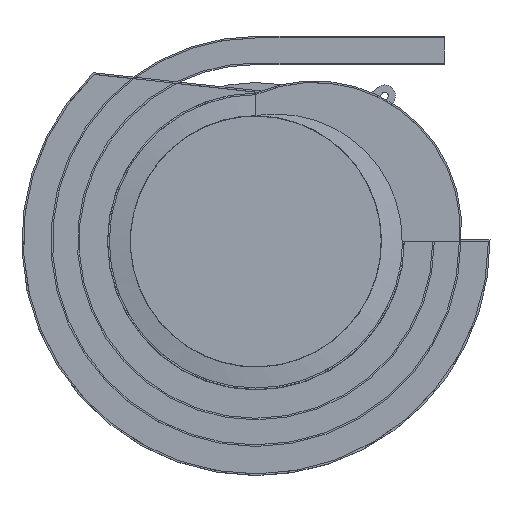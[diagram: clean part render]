
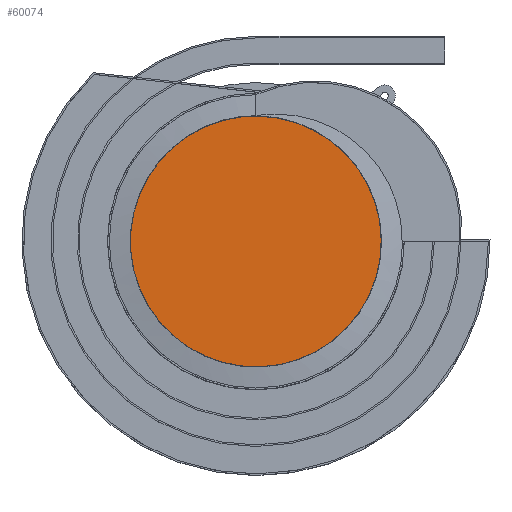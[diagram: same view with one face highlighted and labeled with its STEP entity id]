
A CAD part, top view. The second image highlights one B-rep face of the part: STEP entity #60074.
In plain terms, the highlighted planar face has unit normal (0, 0, 1) as drawn and (0, 1, 0) by its records, which use the part's own axes.
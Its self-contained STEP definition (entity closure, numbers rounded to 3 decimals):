
#5635 = CARTESIAN_POINT ( 'NONE',  ( 0., 240., 0. ) ) ;
#6329 = DIRECTION ( 'NONE',  ( 0., 0., -1. ) ) ;
#6831 = DIRECTION ( 'NONE',  ( 0., -1., 0. ) ) ;
#7486 = FACE_OUTER_BOUND ( 'NONE', #117508, .T. ) ;
#9879 = VERTEX_POINT ( 'NONE', #88602 ) ;
#14222 = ORIENTED_EDGE ( 'NONE', *, *, #48626, .F. ) ;
#28204 = CARTESIAN_POINT ( 'NONE',  ( 0., 240., -205. ) ) ;
#28951 = DIRECTION ( 'NONE',  ( 0., -1., 0. ) ) ;
#39331 = DIRECTION ( 'NONE',  ( 0., -1., 0. ) ) ;
#48626 = EDGE_CURVE ( 'NONE', #9879, #102577, #112095, .T. ) ;
#49953 = PLANE ( 'NONE',  #130750 ) ;
#57938 = AXIS2_PLACEMENT_3D ( 'NONE', #5635, #28951, #6329 ) ;
#60074 = ADVANCED_FACE ( 'NONE', ( #7486 ), #49953, .F. ) ;
#61979 = CARTESIAN_POINT ( 'NONE',  ( 0., 240., 0. ) ) ;
#62679 = DIRECTION ( 'NONE',  ( 0., 0., -1. ) ) ;
#66428 = ORIENTED_EDGE ( 'NONE', *, *, #88133, .F. ) ;
#78487 = AXIS2_PLACEMENT_3D ( 'NONE', #61979, #6831, #62679 ) ;
#88133 = EDGE_CURVE ( 'NONE', #102577, #9879, #134625, .T. ) ;
#88602 = CARTESIAN_POINT ( 'NONE',  ( 0., 240., 205. ) ) ;
#102577 = VERTEX_POINT ( 'NONE', #28204 ) ;
#112095 = CIRCLE ( 'NONE', #78487, 205. ) ;
#112904 = DIRECTION ( 'NONE',  ( 0., 0., -1. ) ) ;
#117508 = EDGE_LOOP ( 'NONE', ( #66428, #14222 ) ) ;
#130750 = AXIS2_PLACEMENT_3D ( 'NONE', #136204, #39331, #112904 ) ;
#134625 = CIRCLE ( 'NONE', #57938, 205. ) ;
#136204 = CARTESIAN_POINT ( 'NONE',  ( 0., 240., 0. ) ) ;
